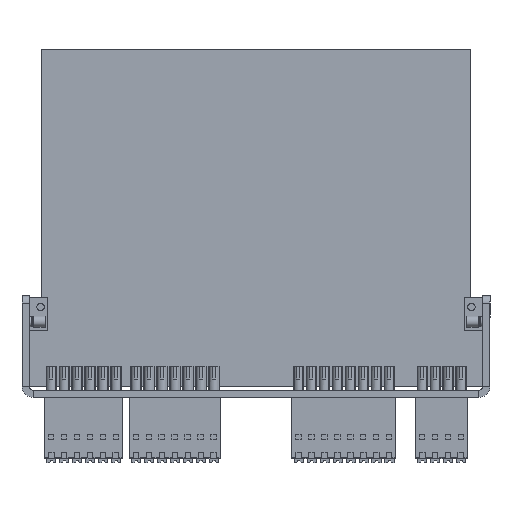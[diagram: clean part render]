
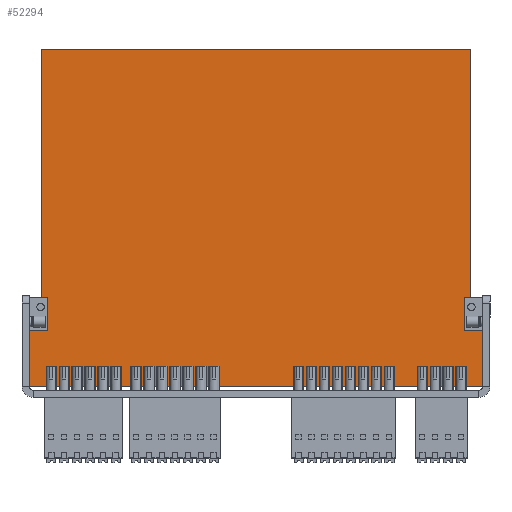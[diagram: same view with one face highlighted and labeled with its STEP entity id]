
A CAD part, front view. The second image highlights one B-rep face of the part: STEP entity #52294.
In plain terms, the highlighted planar face has unit normal (0, -1, 0) as drawn and (0, 0, 1) by its records, which use the part's own axes.
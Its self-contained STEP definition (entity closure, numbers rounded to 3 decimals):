
#1016=FACE_BOUND('',#6761,.T.);
#1017=FACE_BOUND('',#6762,.T.);
#1294=PLANE('',#55463);
#3904=FACE_OUTER_BOUND('',#6760,.T.);
#6760=EDGE_LOOP('',(#37123,#37124,#37125,#37126,#37127,#37128,#37129,#37130));
#6761=EDGE_LOOP('',(#37131));
#6762=EDGE_LOOP('',(#37132));
#9870=LINE('',#74778,#16469);
#9874=LINE('',#74786,#16473);
#9877=LINE('',#74792,#16476);
#9880=LINE('',#74798,#16479);
#9883=LINE('',#74804,#16482);
#9886=LINE('',#74810,#16485);
#9889=LINE('',#74816,#16488);
#9892=LINE('',#74821,#16491);
#16469=VECTOR('',#59868,10.);
#16473=VECTOR('',#59874,10.);
#16476=VECTOR('',#59879,10.);
#16479=VECTOR('',#59884,10.);
#16482=VECTOR('',#59889,10.);
#16485=VECTOR('',#59894,10.);
#16488=VECTOR('',#59899,10.);
#16491=VECTOR('',#59904,10.);
#22974=CIRCLE('',#55451,1.25);
#22976=CIRCLE('',#55454,1.25);
#23913=VERTEX_POINT('',#74766);
#23915=VERTEX_POINT('',#74772);
#23916=VERTEX_POINT('',#74776);
#23917=VERTEX_POINT('',#74777);
#23920=VERTEX_POINT('',#74785);
#23922=VERTEX_POINT('',#74791);
#23924=VERTEX_POINT('',#74797);
#23926=VERTEX_POINT('',#74803);
#23928=VERTEX_POINT('',#74809);
#23930=VERTEX_POINT('',#74815);
#29108=EDGE_CURVE('',#23913,#23913,#22974,.T.);
#29111=EDGE_CURVE('',#23915,#23915,#22976,.T.);
#29112=EDGE_CURVE('',#23916,#23917,#9870,.T.);
#29116=EDGE_CURVE('',#23917,#23920,#9874,.T.);
#29119=EDGE_CURVE('',#23920,#23922,#9877,.T.);
#29122=EDGE_CURVE('',#23922,#23924,#9880,.T.);
#29125=EDGE_CURVE('',#23924,#23926,#9883,.T.);
#29128=EDGE_CURVE('',#23926,#23928,#9886,.T.);
#29131=EDGE_CURVE('',#23928,#23930,#9889,.T.);
#29134=EDGE_CURVE('',#23930,#23916,#9892,.T.);
#37123=ORIENTED_EDGE('',*,*,#29134,.T.);
#37124=ORIENTED_EDGE('',*,*,#29112,.T.);
#37125=ORIENTED_EDGE('',*,*,#29116,.T.);
#37126=ORIENTED_EDGE('',*,*,#29119,.T.);
#37127=ORIENTED_EDGE('',*,*,#29122,.T.);
#37128=ORIENTED_EDGE('',*,*,#29125,.T.);
#37129=ORIENTED_EDGE('',*,*,#29128,.T.);
#37130=ORIENTED_EDGE('',*,*,#29131,.T.);
#37131=ORIENTED_EDGE('',*,*,#29111,.T.);
#37132=ORIENTED_EDGE('',*,*,#29108,.T.);
#52294=ADVANCED_FACE('',(#3904,#1016,#1017),#1294,.T.);
#55451=AXIS2_PLACEMENT_3D('',#74768,#59857,#59858);
#55454=AXIS2_PLACEMENT_3D('',#74774,#59864,#59865);
#55463=AXIS2_PLACEMENT_3D('',#74823,#59906,#59907);
#59857=DIRECTION('center_axis',(0.,0.,-1.));
#59858=DIRECTION('ref_axis',(-1.,0.,0.));
#59864=DIRECTION('center_axis',(0.,0.,-1.));
#59865=DIRECTION('ref_axis',(-1.,0.,0.));
#59868=DIRECTION('',(1.,0.,0.));
#59874=DIRECTION('',(0.,1.,0.));
#59879=DIRECTION('',(1.,0.,0.));
#59884=DIRECTION('',(0.,1.,0.));
#59889=DIRECTION('',(-1.,0.,0.));
#59894=DIRECTION('',(0.,-1.,0.));
#59899=DIRECTION('',(1.,0.,0.));
#59904=DIRECTION('',(0.,-1.,0.));
#59906=DIRECTION('center_axis',(0.,0.,1.));
#59907=DIRECTION('ref_axis',(1.,0.,0.));
#74766=CARTESIAN_POINT('',(59.45,24.,0.));
#74768=CARTESIAN_POINT('Origin',(58.2,24.,0.));
#74772=CARTESIAN_POINT('',(-56.95,24.,0.));
#74774=CARTESIAN_POINT('Origin',(-58.2,24.,0.));
#74776=CARTESIAN_POINT('',(-58.,-45.5,0.));
#74777=CARTESIAN_POINT('',(58.,-45.5,0.));
#74778=CARTESIAN_POINT('',(-58.,-45.5,0.));
#74785=CARTESIAN_POINT('',(58.,21.5,0.));
#74786=CARTESIAN_POINT('',(58.,-45.5,0.));
#74791=CARTESIAN_POINT('',(61.2,21.5,0.));
#74792=CARTESIAN_POINT('',(58.,21.5,0.));
#74797=CARTESIAN_POINT('',(61.2,45.5,0.));
#74798=CARTESIAN_POINT('',(61.2,21.5,0.));
#74803=CARTESIAN_POINT('',(-61.2,45.5,0.));
#74804=CARTESIAN_POINT('',(61.2,45.5,0.));
#74809=CARTESIAN_POINT('',(-61.2,21.5,0.));
#74810=CARTESIAN_POINT('',(-61.2,45.5,0.));
#74815=CARTESIAN_POINT('',(-58.,21.5,0.));
#74816=CARTESIAN_POINT('',(-61.2,21.5,0.));
#74821=CARTESIAN_POINT('',(-58.,21.5,0.));
#74823=CARTESIAN_POINT('Origin',(0.,0.,0.));
